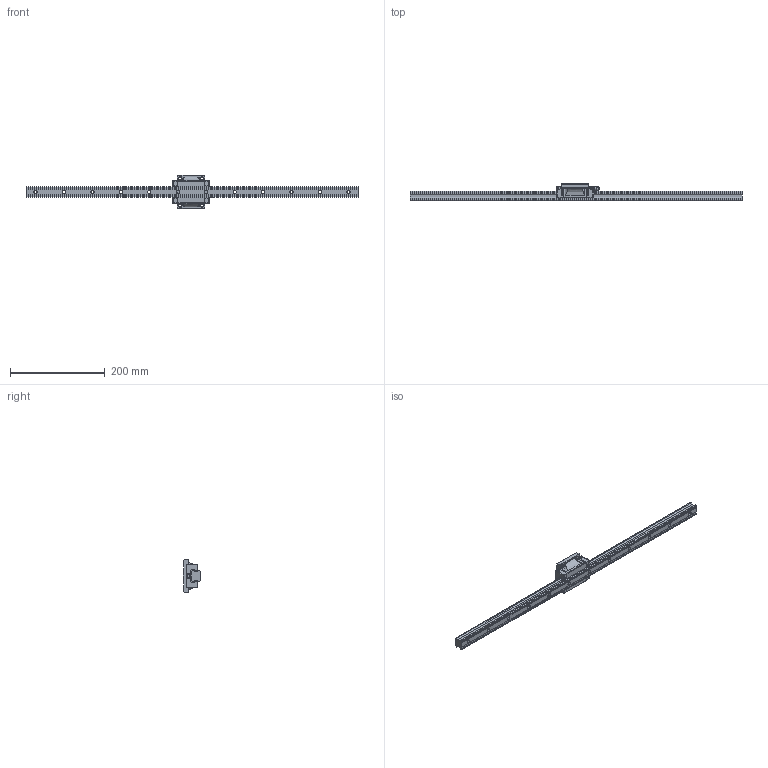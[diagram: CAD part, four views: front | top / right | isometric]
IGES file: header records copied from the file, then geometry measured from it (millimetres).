
Start section: SolidWorks IGES file using analytic representation for surfaces
Global section: file name: C:\Users\tsuch\OneDrive\デスクトップ\EG25関連修正(3D)\EGH25F.IGS; native system: SolidWorks 2019; preprocessor: SolidWorks 2019; author: tsuch; date: 210706.144536; units: millimetre
Bounding box: 700 x 36 x 70 mm (x, y, z)
Surface area: 94751.2 mm2 (no closed solid volume)
Topology: 0 solids, 0 shells, 578 faces, 6503 edges, 6503 vertices
Faces by surface type: bspline 352, revolution 226
